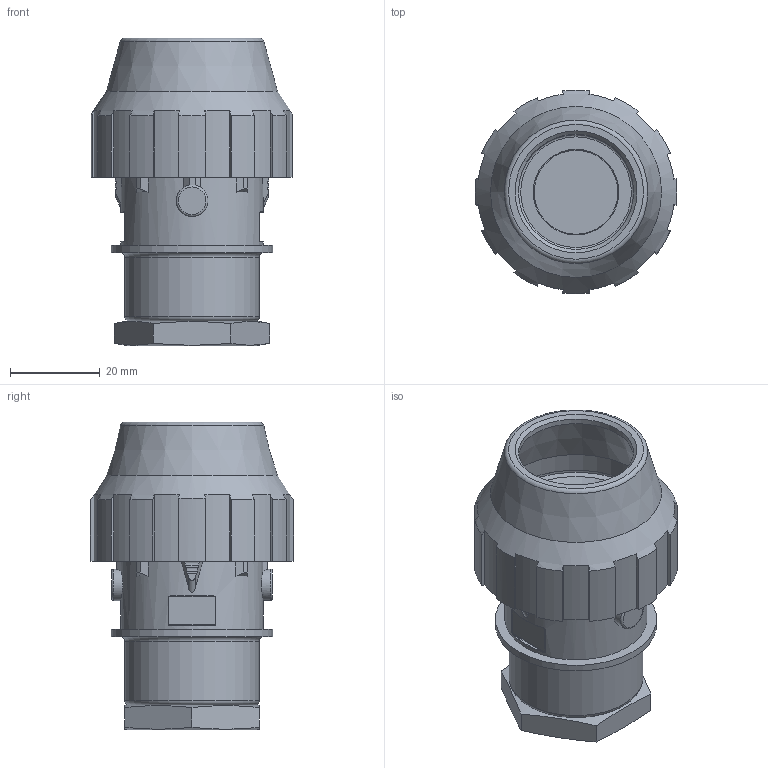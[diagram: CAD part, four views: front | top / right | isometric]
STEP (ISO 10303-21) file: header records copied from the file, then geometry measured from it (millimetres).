
FILE_DESCRIPTION( ( 'STEP AP214' ), '1' );
FILE_NAME( ' ', ' ', ( ' ' ), ( ' ' ), 'PSStep 11.0', 'VISI 17.0', ' ' );
FILE_SCHEMA( ( 'AUTOMOTIVE_DESIGN { 1 0 10303 214 1 1 1 1 }' ) );
Length unit declared in the file: millimetre
Products named in the file (7): 1; 2; 3; 4; 5; 6; 7
Bounding box: 44.98 x 45.46 x 68.61 mm (x, y, z)
Volume: 32805 mm3; surface area: 30457.7 mm2
Topology: 7 solids, 7 shells, 208 faces, 525 edges, 343 vertices
Faces by surface type: plane 99, cylinder 76, torus 14, cone 11, bspline 8
Full cylindrical faces by diameter (mm): 7.042 x2, 19.109 x2, 24.117 x3, 25.7 x2, 26.441 x2, 30 x1, 31.751 x1, 36 x2, 37 x1, 40 x2
Entity records: 9361 total; most frequent: CARTESIAN_POINT 2783, DIRECTION 1048, ORIENTED_EDGE 932, EDGE_CURVE 466, AXIS2_PLACEMENT_3D 427, VERTEX_POINT 324, EDGE_LOOP 268, FACE_OUTER_BOUND 236
